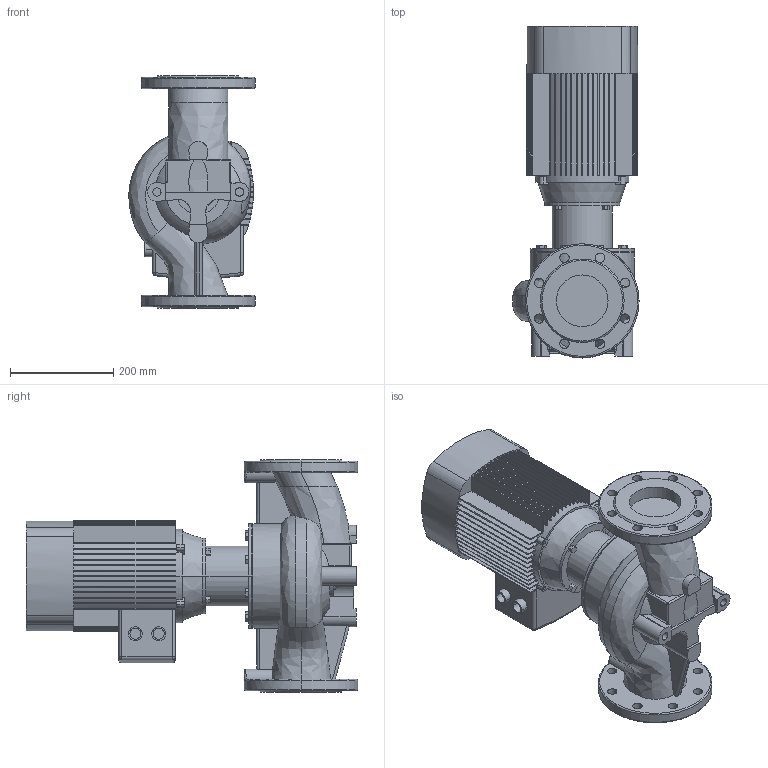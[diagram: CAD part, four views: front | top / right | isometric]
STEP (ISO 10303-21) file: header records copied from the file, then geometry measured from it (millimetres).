
FILE_DESCRIPTION (( 'STEP AP203' ), '1' );
FILE_NAME ('TD100-15_2.STEP', '2022-05-02T18:56:19', ( '' ), ( '' ), 'SwSTEP 2.0', 'SolidWorks 2019', '' );
FILE_SCHEMA (( 'CONFIG_CONTROL_DESIGN' ));
Length unit declared in the file: millimetre
Products named in the file (4): Fon_100_TD100-15_2; ED_B14_YE2-112M-2 (4); TD100-15_2; Pr_ch 100_TD100-15_2
Assembly tree (3 placements, depth 2):
  TD100-15_2
    Pr_ch 100_TD100-15_2
    Fon_100_TD100-15_2
    ED_B14_YE2-112M-2 (4)
Bounding box: 244.1 x 642 x 450 mm (x, y, z)
Volume: 21781717.6 mm3; surface area: 1347900.4 mm2
Topology: 3 solids, 5 shells, 662 faces, 1826 edges, 1199 vertices
Faces by surface type: plane 424, cylinder 173, bspline 26, torus 22, cone 11, sphere 6
Entity records: 27992 total; most frequent: CARTESIAN_POINT 10512, ORIENTED_EDGE 3644, DIRECTION 3545, EDGE_CURVE 1822, AXIS2_PLACEMENT_3D 1255, VERTEX_POINT 1199, LINE 1035, VECTOR 1035
